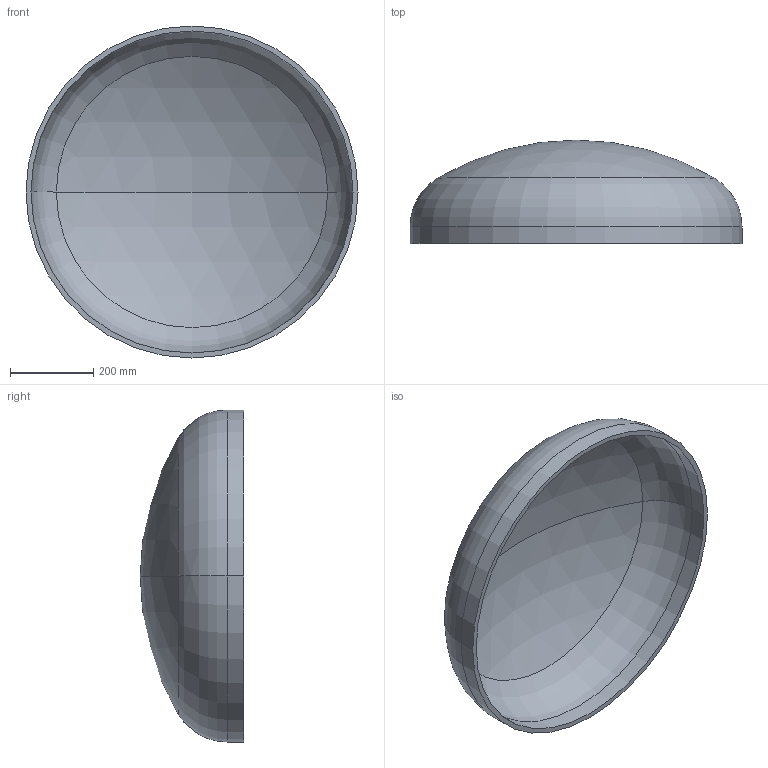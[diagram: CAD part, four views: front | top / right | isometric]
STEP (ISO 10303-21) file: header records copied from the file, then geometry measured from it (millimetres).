
FILE_DESCRIPTION (( 'STEP AP203' ), '1' );
FILE_NAME ('DIN 28013 Korbbogenform_-_Boden DIN 28013 - 800 x 40 - I - s=12.step', '2016-07-01T08:12:41', ( '' ), ( '' ), 'SwSTEP 2.0', 'SolidWorks 2013', '' );
FILE_SCHEMA (( 'CONFIG_CONTROL_DESIGN' ));
Length unit declared in the file: millimetre
Products named in the file (1): DIN 28013 Korbbogenform_-_Boden DIN 28013 - 800 x 40 - I - s=12
Bounding box: 800 x 249.22 x 800 mm (x, y, z)
Volume: 9402078.6 mm3; surface area: 1597021.1 mm2
Topology: 1 solids, 1 shells, 13 faces, 24 edges, 14 vertices
Faces by surface type: torus 4, cylinder 4, sphere 4, plane 1
Entity records: 407 total; most frequent: DIRECTION 72, CARTESIAN_POINT 52, ORIENTED_EDGE 48, AXIS2_PLACEMENT_3D 34, EDGE_CURVE 24, CIRCLE 20, VERTEX_POINT 14, EDGE_LOOP 14
